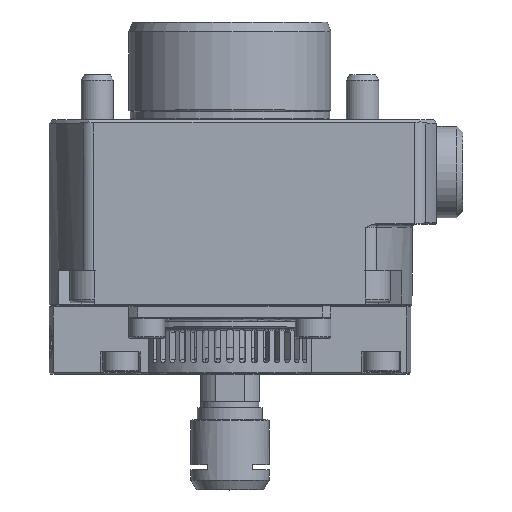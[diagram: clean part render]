
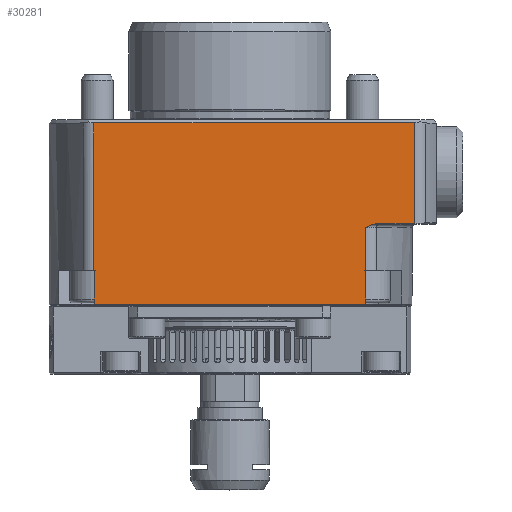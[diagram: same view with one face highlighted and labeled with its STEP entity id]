
A CAD part, top view. The second image highlights one B-rep face of the part: STEP entity #30281.
In plain terms, the highlighted planar face has unit normal (0, 0, 1).
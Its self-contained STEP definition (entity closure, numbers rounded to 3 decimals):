
#72 = DIRECTION ( 'NONE',  ( 1., 0., 0. ) ) ;
#98 = VECTOR ( 'NONE', #29554, 1000. ) ;
#204 = LINE ( 'NONE', #41845, #22043 ) ;
#512 = EDGE_CURVE ( 'NONE', #13964, #15335, #13798, .T. ) ;
#810 = CARTESIAN_POINT ( 'NONE',  ( 21.112, -16.381, 17.5 ) ) ;
#1153 = VECTOR ( 'NONE', #35177, 1000. ) ;
#1879 = VECTOR ( 'NONE', #35902, 1000. ) ;
#2195 = CARTESIAN_POINT ( 'NONE',  ( 28.281, -0.5, 17.5 ) ) ;
#3448 = CARTESIAN_POINT ( 'NONE',  ( -28.001, -0.5, 17.5 ) ) ;
#3839 = DIRECTION ( 'NONE',  ( -1., 0., 0. ) ) ;
#4457 = VERTEX_POINT ( 'NONE', #11063 ) ;
#5599 = EDGE_CURVE ( 'NONE', #18230, #25428, #36309, .T. ) ;
#5788 = CARTESIAN_POINT ( 'NONE',  ( -28.001, -16., 17.5 ) ) ;
#6002 = ORIENTED_EDGE ( 'NONE', *, *, #35683, .T. ) ;
#6411 = CARTESIAN_POINT ( 'NONE',  ( -28.001, -23.1, 17.5 ) ) ;
#6732 = LINE ( 'NONE', #32925, #1879 ) ;
#7578 = PLANE ( 'NONE',  #8123 ) ;
#8123 = AXIS2_PLACEMENT_3D ( 'NONE', #20467, #33375, #14136 ) ;
#9028 = DIRECTION ( 'NONE',  ( 0., 1., 0. ) ) ;
#9641 = CARTESIAN_POINT ( 'NONE',  ( 20.811, 0., 17.5 ) ) ;
#9752 = DIRECTION ( 'NONE',  ( 0., -1., 0. ) ) ;
#9992 = EDGE_CURVE ( 'NONE', #10508, #19597, #35380, .T. ) ;
#10508 = VERTEX_POINT ( 'NONE', #21647 ) ;
#10735 = CARTESIAN_POINT ( 'NONE',  ( 22.375, -16., 17.5 ) ) ;
#10758 = FACE_OUTER_BOUND ( 'NONE', #15787, .T. ) ;
#11063 = CARTESIAN_POINT ( 'NONE',  ( 20.875, -16.5, 17.5 ) ) ;
#13177 = EDGE_CURVE ( 'NONE', #25428, #10508, #22500, .T. ) ;
#13473 = EDGE_CURVE ( 'NONE', #4457, #38289, #21545, .T. ) ;
#13791 = CARTESIAN_POINT ( 'NONE',  ( 28.281, -16., 17.5 ) ) ;
#13798 = LINE ( 'NONE', #3448, #14792 ) ;
#13964 = VERTEX_POINT ( 'NONE', #2195 ) ;
#14136 = DIRECTION ( 'NONE',  ( 0., -1., 0. ) ) ;
#14792 = VECTOR ( 'NONE', #3839, 1000. ) ;
#14887 = EDGE_CURVE ( 'NONE', #17494, #39462, #37341, .T. ) ;
#15335 = VERTEX_POINT ( 'NONE', #27499 ) ;
#15787 = EDGE_LOOP ( 'NONE', ( #17261, #39481, #22710, #40330, #30569, #27463, #35920, #6002, #41182, #32177, #26915 ) ) ;
#16201 = DIRECTION ( 'NONE',  ( 0., 1., 0. ) ) ;
#17261 = ORIENTED_EDGE ( 'NONE', *, *, #14887, .F. ) ;
#17494 = VERTEX_POINT ( 'NONE', #38286 ) ;
#18230 = VERTEX_POINT ( 'NONE', #34405 ) ;
#18365 = CARTESIAN_POINT ( 'NONE',  ( 20.811, -28.3, 17.5 ) ) ;
#18682 = LINE ( 'NONE', #5788, #1153 ) ;
#19299 = CARTESIAN_POINT ( 'NONE',  ( -20.875, -23.1, 17.5 ) ) ;
#19597 = VERTEX_POINT ( 'NONE', #22143 ) ;
#20247 = CARTESIAN_POINT ( 'NONE',  ( -28.001, -28.3, 17.5 ) ) ;
#20467 = CARTESIAN_POINT ( 'NONE',  ( -28.001, 0., 17.5 ) ) ;
#21545 = B_SPLINE_CURVE_WITH_KNOTS ( 'NONE', 3,
 ( #29764, #810, #30168, #36300, #39701, #10735 ),
 .UNSPECIFIED., .F., .F.,
 ( 4, 2, 4 ),
 ( 0., 0.001, 0.002 ),
 .UNSPECIFIED. ) ;
#21647 = CARTESIAN_POINT ( 'NONE',  ( 20.811, -23.1, 17.5 ) ) ;
#21762 = VECTOR ( 'NONE', #37122, 1000. ) ;
#21889 = CARTESIAN_POINT ( 'NONE',  ( 28.281, 0., 17.5 ) ) ;
#22043 = VECTOR ( 'NONE', #41620, 1000. ) ;
#22143 = CARTESIAN_POINT ( 'NONE',  ( 20.875, -23.1, 17.5 ) ) ;
#22500 = LINE ( 'NONE', #9641, #33168 ) ;
#22710 = ORIENTED_EDGE ( 'NONE', *, *, #5599, .T. ) ;
#23080 = EDGE_CURVE ( 'NONE', #17494, #18230, #6732, .T. ) ;
#25428 = VERTEX_POINT ( 'NONE', #18365 ) ;
#26915 = ORIENTED_EDGE ( 'NONE', *, *, #41023, .T. ) ;
#27463 = ORIENTED_EDGE ( 'NONE', *, *, #36152, .T. ) ;
#27471 = VERTEX_POINT ( 'NONE', #13791 ) ;
#27499 = CARTESIAN_POINT ( 'NONE',  ( -20.875, -0.5, 17.5 ) ) ;
#29554 = DIRECTION ( 'NONE',  ( 1., 0., 0. ) ) ;
#29764 = CARTESIAN_POINT ( 'NONE',  ( 20.875, -16.5, 17.5 ) ) ;
#30168 = CARTESIAN_POINT ( 'NONE',  ( 21.35, -16.262, 17.5 ) ) ;
#30281 = ADVANCED_FACE ( 'NONE', ( #10758 ), #7578, .T. ) ;
#30569 = ORIENTED_EDGE ( 'NONE', *, *, #9992, .T. ) ;
#31722 = CARTESIAN_POINT ( 'NONE',  ( -20.875, 0., 17.5 ) ) ;
#32177 = ORIENTED_EDGE ( 'NONE', *, *, #512, .T. ) ;
#32925 = CARTESIAN_POINT ( 'NONE',  ( -20.811, 0., 17.5 ) ) ;
#33168 = VECTOR ( 'NONE', #16201, 1000. ) ;
#33375 = DIRECTION ( 'NONE',  ( 0., 0., 1. ) ) ;
#34148 = CARTESIAN_POINT ( 'NONE',  ( -28.001, -23.1, 17.5 ) ) ;
#34405 = CARTESIAN_POINT ( 'NONE',  ( -20.811, -28.3, 17.5 ) ) ;
#35177 = DIRECTION ( 'NONE',  ( 1., 0., 0. ) ) ;
#35380 = LINE ( 'NONE', #6411, #37978 ) ;
#35683 = EDGE_CURVE ( 'NONE', #38289, #27471, #18682, .T. ) ;
#35902 = DIRECTION ( 'NONE',  ( 0., -1., 0. ) ) ;
#35920 = ORIENTED_EDGE ( 'NONE', *, *, #13473, .T. ) ;
#36152 = EDGE_CURVE ( 'NONE', #19597, #4457, #204, .T. ) ;
#36278 = VECTOR ( 'NONE', #9028, 1000. ) ;
#36300 = CARTESIAN_POINT ( 'NONE',  ( 21.848, -16.072, 17.5 ) ) ;
#36309 = LINE ( 'NONE', #20247, #98 ) ;
#36499 = EDGE_CURVE ( 'NONE', #27471, #13964, #37777, .T. ) ;
#37050 = VECTOR ( 'NONE', #9752, 1000. ) ;
#37122 = DIRECTION ( 'NONE',  ( -1., 0., 0. ) ) ;
#37341 = LINE ( 'NONE', #34148, #21762 ) ;
#37777 = LINE ( 'NONE', #21889, #36278 ) ;
#37978 = VECTOR ( 'NONE', #72, 1000. ) ;
#38286 = CARTESIAN_POINT ( 'NONE',  ( -20.811, -23.1, 17.5 ) ) ;
#38289 = VERTEX_POINT ( 'NONE', #41414 ) ;
#39462 = VERTEX_POINT ( 'NONE', #19299 ) ;
#39481 = ORIENTED_EDGE ( 'NONE', *, *, #23080, .T. ) ;
#39701 = CARTESIAN_POINT ( 'NONE',  ( 22.106, -16., 17.5 ) ) ;
#40330 = ORIENTED_EDGE ( 'NONE', *, *, #13177, .T. ) ;
#41023 = EDGE_CURVE ( 'NONE', #15335, #39462, #41458, .T. ) ;
#41182 = ORIENTED_EDGE ( 'NONE', *, *, #36499, .T. ) ;
#41414 = CARTESIAN_POINT ( 'NONE',  ( 22.375, -16., 17.5 ) ) ;
#41458 = LINE ( 'NONE', #31722, #37050 ) ;
#41620 = DIRECTION ( 'NONE',  ( 0., 1., 0. ) ) ;
#41845 = CARTESIAN_POINT ( 'NONE',  ( 20.875, 0., 17.5 ) ) ;
